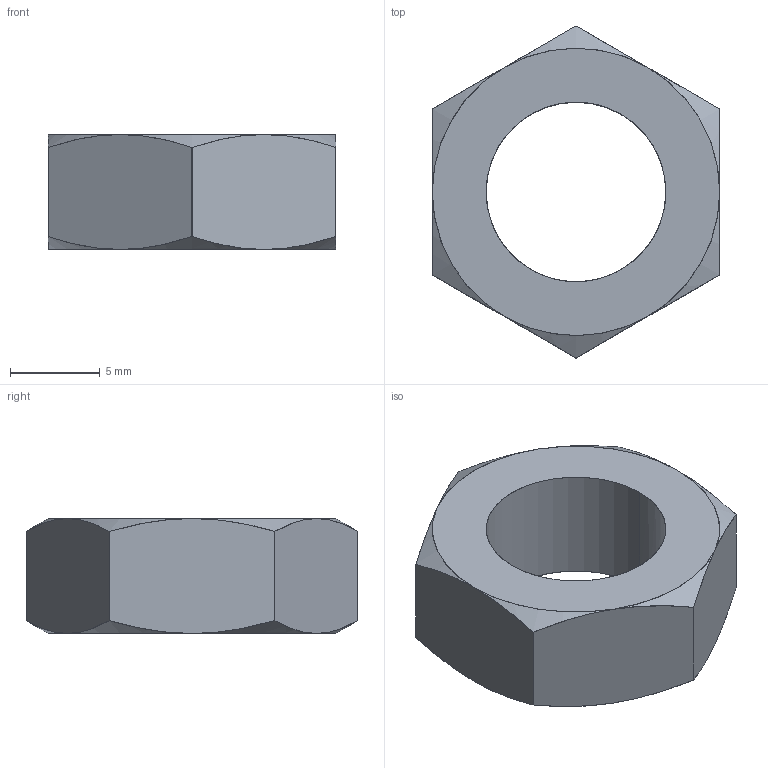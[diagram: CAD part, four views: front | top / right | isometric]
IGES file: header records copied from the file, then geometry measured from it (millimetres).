
Start section: START RECORD GO HERE.
Global section: file name: EcrouH19.igs; native system: IBM CATIA IGES - CATIA Version 5 Release 18 ; preprocessor: CATIA Version 5 Release 18 ; author: Propriétaire; organization: FUJITSU-79916BB; date: 20090111.191025; units: millimetre
Bounding box: 16 x 18.48 x 6.4 mm (x, y, z)
Surface area: 821.3 mm2 (no closed solid volume)
Topology: 0 solids, 0 shells, 22 faces, 96 edges, 96 vertices
Faces by surface type: revolution 14, plane 8
